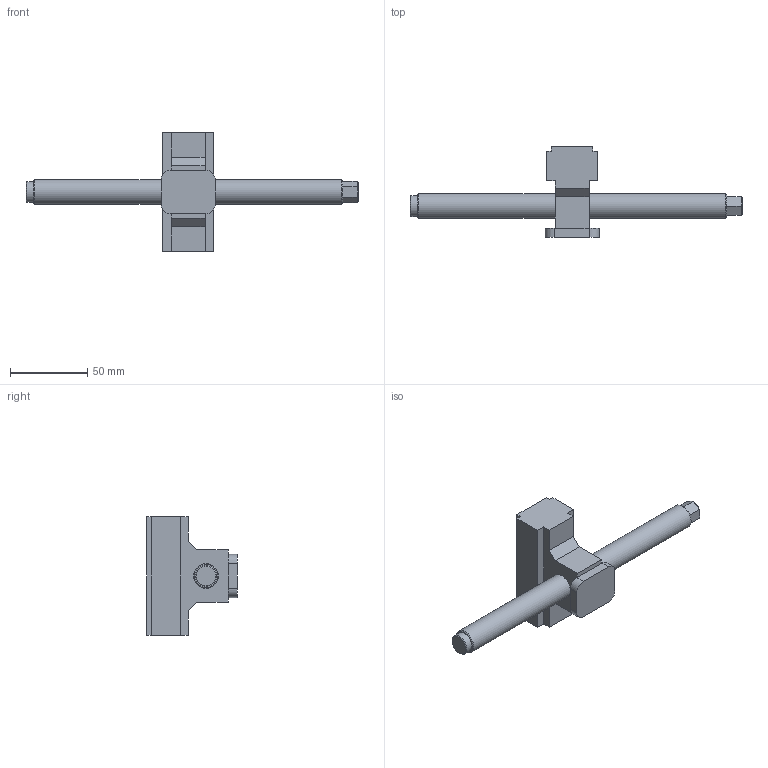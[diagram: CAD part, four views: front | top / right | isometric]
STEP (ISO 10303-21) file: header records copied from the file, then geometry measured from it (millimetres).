
FILE_DESCRIPTION (( 'STEP AP214' ), '1' );
FILE_NAME ('48200-TG7727.STEP', '2020-03-24T14:47:32', ( '' ), ( '' ), 'SwSTEP 2.0', 'SolidWorks 2019', '' );
FILE_SCHEMA (( 'AUTOMOTIVE_DESIGN' ));
Length unit declared in the file: millimetre
Products named in the file (1): 48200-TG7727
Bounding box: 215 x 58.8 x 77 mm (x, y, z)
Volume: 126154.9 mm3; surface area: 24732.8 mm2
Topology: 1 solids, 1 shells, 67 faces, 163 edges, 103 vertices
Faces by surface type: plane 57, cylinder 7, cone 3
Full cylindrical faces by diameter (mm): 13.5 x1, 16 x2
Entity records: 2410 total; most frequent: CARTESIAN_POINT 324, ORIENTED_EDGE 310, DIRECTION 308, EDGE_CURVE 155, LINE 138, VECTOR 138, VERTEX_POINT 101, AXIS2_PLACEMENT_3D 85
